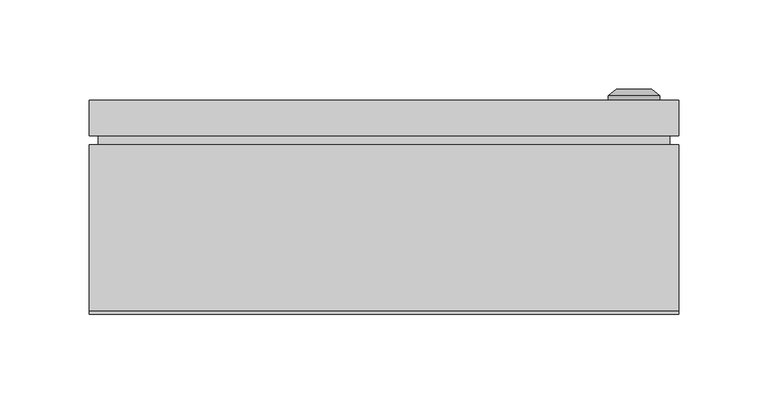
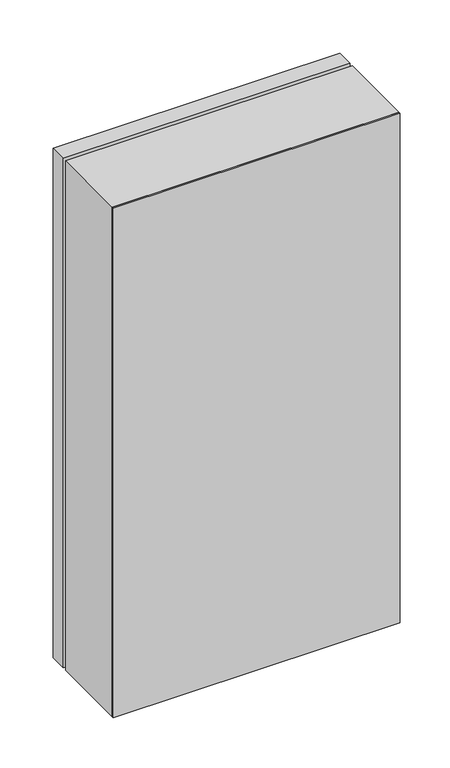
"""IFC4 building model written with IfcOpenShell, lengths in millimetres: proxy geometry, ЩРН-48_IP66 : ЩРН-48_IP66."""

from ifc_helpers import new_model, si_unit, frame, origin, origin_with_axes, place, context, project, spatial, polyline, circle_curve, outline, extrude, source, transform, mapped, element, save
from ifc_brep_helpers import plane_surface, cylinder_surface, revolved_surface, advanced_brep


def electrical_equipment_22b4aa98(model_context):
    return source(origin(), model_context, "Body", "SolidModel", [
        extrude(outline(polyline([(160.0, 95.0), (-160.0, 95.0), (-160.0, 100.0), (160.0, 100.0), (160.0, 95.0)])), frame((0.0, 0.0, 5.0), z_axis=(0.0, 0.0, 1.0), x_axis=(1.0, 0.0, 0.0)), (0.0, 0.0, 1.0), 610.0),
        extrude(outline(polyline([(165.0, 100.0), (-165.0, 100.0), (-165.0, 120.0), (165.0, 120.0), (165.0, 100.0)])), origin_with_axes(), (0.0, 0.0, 1.0), 620.0),
        advanced_brep(
        [(125.669873, 120.0, 307.5), (154.330127, 120.0, 307.5), (140.0, 120.0, 307.5), (125.669873, 122.366592, 307.5), (154.330127, 122.366592, 307.5), (130.0, 126.0, 307.5), (150.0, 126.0, 307.5), (138.1080471, 126.0, 307.5), (141.8919529, 126.0, 307.5), (138.1080471, 124.9822294, 307.5), (141.8919529, 124.9822294, 307.5), (140.0, 124.9822294, 307.5)],
        [
            (0, 1, circle_curve(frame((140.0, 120.0, 307.5), z_axis=(0.0, -1.0, 0.0), x_axis=(1.0, 0.0, 0.0)), 14.330127)),
            (1, 2),
            (2, 0),
            (1, 0, circle_curve(frame((140.0, 120.0, 307.5), z_axis=(0.0, -1.0, 0.0), x_axis=(1.0, 0.0, 0.0)), 14.330127)),
            (3, 4, circle_curve(frame((140.0, 122.366592, 307.5), z_axis=(0.0, -1.0, 0.0), x_axis=(1.0, 0.0, 0.0)), 14.330127)),
            (4, 1),
            (0, 3),
            (4, 3, circle_curve(frame((140.0, 122.366592, 307.5), z_axis=(0.0, -1.0, 0.0), x_axis=(1.0, 0.0, 0.0)), 14.330127)),
            (5, 6, circle_curve(frame((140.0, 126.0, 307.5), z_axis=(0.0, -1.0, 0.0), x_axis=(1.0, 0.0, 0.0)), 10.0)),
            (6, 4),
            (3, 5),
            (6, 5, circle_curve(frame((140.0, 126.0, 307.5), z_axis=(0.0, -1.0, 0.0), x_axis=(1.0, 0.0, 0.0)), 10.0)),
            (7, 8, circle_curve(frame((140.0, 126.0, 307.5), z_axis=(0.0, -1.0, 0.0), x_axis=(1.0, 0.0, 0.0)), 1.8919529)),
            (8, 6),
            (5, 7),
            (8, 7, circle_curve(frame((140.0, 126.0, 307.5), z_axis=(0.0, -1.0, 0.0), x_axis=(1.0, 0.0, 0.0)), 1.8919529)),
            (9, 10, circle_curve(frame((140.0, 124.9822294, 307.5), z_axis=(0.0, -1.0, 0.0), x_axis=(1.0, 0.0, 0.0)), 1.8919529)),
            (10, 8),
            (7, 9),
            (10, 9, circle_curve(frame((140.0, 124.9822294, 307.5), z_axis=(0.0, -1.0, 0.0), x_axis=(1.0, 0.0, 0.0)), 1.8919529)),
            (11, 10),
            (9, 11),
        ],
        [
            plane_surface(frame((140.0, 120.0, 307.5), z_axis=(0.0, -1.0, 0.0), x_axis=(1.0, 0.0, 0.0))),
            cylinder_surface(frame((140.0, 133.1348851, 307.5), z_axis=(0.0, 1.0, 0.0), x_axis=(1.0, 0.0, 0.0)), 14.330127),
            revolved_surface(polyline([(154.330127, 122.366592, 307.5), (150.0, 126.0, 307.5)]), (140.0, 133.1348851, 307.5), (0.0, 1.0, 0.0)),
            plane_surface(frame((140.0, 126.0, 307.5), z_axis=(0.0, 1.0, 0.0), x_axis=(1.0, 0.0, 0.0))),
            revolved_surface(polyline([(141.8919529, 126.0, 307.5), (141.8919529, 124.9822294, 307.5)]), (140.0, 133.1348851, 307.5), (0.0, 1.0, 0.0)),
            plane_surface(frame((140.0, 124.9822294, 307.5), z_axis=(0.0, 1.0, 0.0), x_axis=(1.0, 0.0, 0.0))),
        ],
        [
            (0, [[1, 2, 3]]),
            (0, [[4, -3, -2]]),
            (1, [[5, 6, -1, 7]]),
            (1, [[8, -7, -4, -6]]),
            (2, [[9, 10, -5, 11]]),
            (2, [[12, -11, -8, -10]]),
            (3, [[13, 14, -9, 15]]),
            (3, [[16, -15, -12, -14]]),
            (4, [[17, 18, -13, 19]]),
            (4, [[20, -19, -16, -18]]),
            (5, [[21, -17, 22]]),
            (5, [[-22, -20, -21]]),
        ],
    ),
        extrude(outline(polyline([(620.0, -165.0033905), (0.0, -165.0033905), (0.0, 164.9966095), (620.0, 164.9966095), (620.0, -165.0033905)]), holes=[polyline([(585.0, -125.0033905), (585.0, 149.9966095), (30.0, 149.9966095), (30.0, -125.0033905), (585.0, -125.0033905)])]), frame((0.0, 2.0, 0.0), z_axis=(0.0, 1.0, 0.0), x_axis=(0.0, 0.0, 1.0)), (0.0, 0.0, 1.0), 93.0),
        extrude(outline(polyline([(165.0, 0.0), (-165.0, 0.0), (-165.0, 2.0), (165.0, 2.0), (165.0, 0.0)])), origin_with_axes(), (0.0, 0.0, 1.0), 620.0),
    ])


if __name__ == "__main__":
    model = new_model("IFC4")
    model_context = context("Model", 3, world=origin())
    ifc_project = project(units=[si_unit("LENGTHUNIT", "METRE", prefix="MILLI")], contexts=[model_context])
    site = spatial("IfcSite", under=ifc_project)
    building = spatial("IfcBuilding", under=site)
    placement = place(None, origin())
    electrical_equipment_shape = electrical_equipment_22b4aa98(model_context)
    element("IfcBuildingElementProxy", 1, Name="ЩРН-48_IP66 : ЩРН-48_IP66", ObjectType="ЩРН-48_IP66 : ЩРН-48_IP66", at=placement, inside=building, context=model_context, shape_type="MappedRepresentation", body=[
        mapped(electrical_equipment_shape, transform((0.0, 0.0, 0.0), x_axis=(1.0, 0.0, 0.0), y_axis=(0.0, 1.0, 0.0), z_axis=(0.0, 0.0, 1.0))),
    ])
    save(model, "model.ifc")
